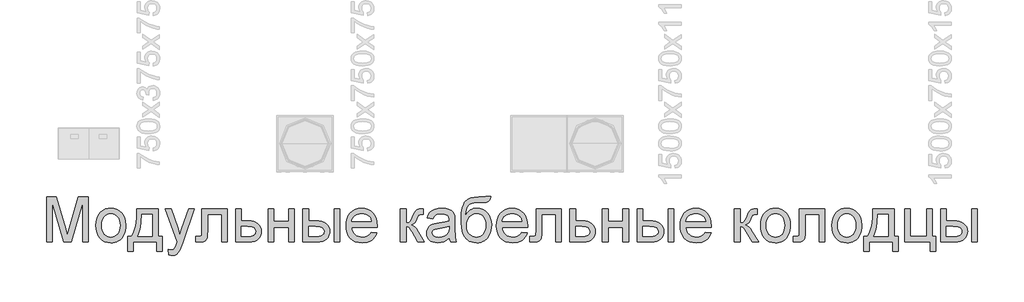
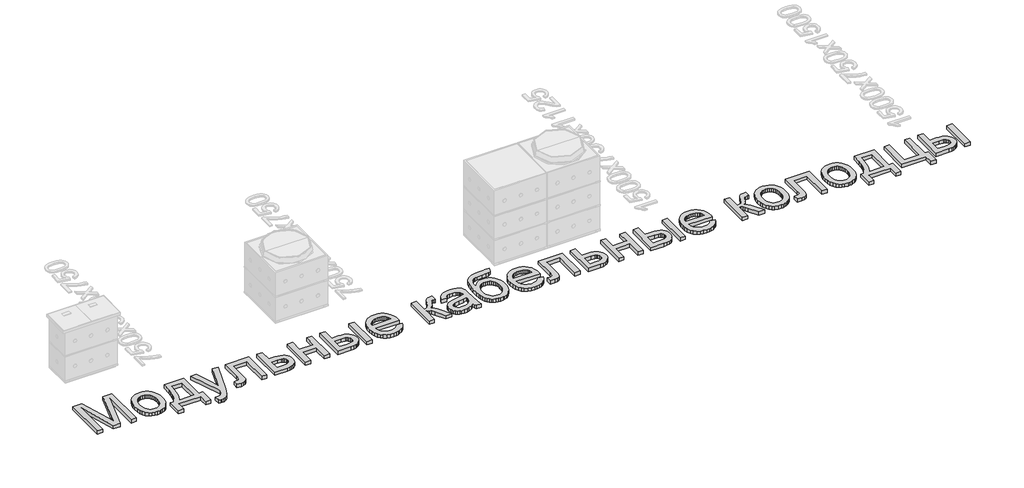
# One storey, part 2 of 3: 1 proxy.
"""IFC4 building model written with IfcOpenShell, lengths in millimetres."""

from ifc_helpers import new_model, si_unit, origin, origin_with_axes, place, context, project, spatial, polyline, outline, extrude, element, save

model = new_model("IFC4")

# Units and contexts
model_context = context("Model", 3, world=origin())
ifc_project = project(units=[si_unit("LENGTHUNIT", "METRE", prefix="MILLI")], contexts=[model_context])

# Site, building, storey
site = spatial("IfcSite", under=ifc_project)
building = spatial("IfcBuilding", under=site)
storey = spatial("IfcBuildingStorey", under=building, Name="Этаж 01", Elevation=0.0)

# Proxy
placement = place(None, origin())
element("IfcBuildingElementProxy", 1, Name="600 мм Arial", ObjectType="600 мм Arial", at=placement, inside=storey, context=model_context, shape_type="SweptSolid", body=[
    extrude(outline(polyline([(772.3234969, -6506.7624322), (772.3234969, -5904.0245713), (901.965112, -5904.0245713), (1025.2791568, -6328.8546993), (1050.1479797, -6417.5878365), (1077.0769417, -6321.4970594), (1198.3308473, -5904.0245713), (1327.9724624, -5904.0245713), (1327.9724624, -6506.7624322), (1252.6302298, -6506.7624322), (1252.6302298, -5979.3668039), (1101.2100006, -6506.7624322), (999.0859587, -6506.7624322), (847.6657295, -5979.3668039), (847.6657295, -6506.7624322), (772.3234969, -6506.7624322)])), origin_with_axes(), (0.0, 0.0, 1.0), 50.0),
    extrude(outline(polyline([(1431.5680323, -6285.4446239), (1435.6423254, -6228.119412), (1447.8652047, -6178.7220571), (1468.2366701, -6137.2525592), (1496.7567218, -6103.7109182), (1525.4699115, -6082.272595), (1557.1629454, -6066.9595069), (1591.8358235, -6057.7716541), (1629.4885457, -6054.7090365), (1671.0546126, -6058.4384402), (1708.6383569, -6069.6266514), (1742.2397787, -6088.27367), (1771.8588778, -6114.3794961), (1796.0333234, -6147.0612128), (1813.3007846, -6185.4359035), (1823.6612613, -6229.503568), (1827.1147535, -6279.2642063), (1825.5880432, -6319.5932701), (1821.0079124, -6355.3789911), (1813.374361, -6386.6213696), (1802.687389, -6413.3204054), (1789.0803537, -6436.382008), (1772.6866123, -6456.7120867), (1753.5061648, -6474.3106417), (1731.5390111, -6489.1776728), (1707.640477, -6500.9912834), (1682.6658881, -6509.4295766), (1656.6152443, -6514.4925526), (1629.4885457, -6516.1802112), (1587.3154735, -6512.4646031), (1549.3822412, -6501.3177786), (1515.688849, -6482.7397379), (1486.2352968, -6456.7304808), (1462.3183685, -6423.7314658), (1445.2348484, -6384.1841514), (1434.9847363, -6338.0885374), (1431.5680323, -6285.4446239)]), holes=[polyline([(1506.9102649, -6285.2974711), (1509.0899657, -6321.8419488), (1515.6290682, -6353.4843989), (1526.5275723, -6380.2248214), (1541.785478, -6402.0632163), (1560.3451247, -6419.0271748), (1581.1488515, -6431.144288), (1604.1966585, -6438.414556), (1629.4885457, -6440.8379786), (1654.6516742, -6438.4007604), (1677.6075107, -6431.0891057), (1698.3560552, -6418.9030147), (1716.8973077, -6401.8424871), (1732.1552135, -6379.7879615), (1743.0537176, -6352.6198762), (1749.5928201, -6320.3382311), (1751.7725209, -6282.9430263), (1749.5790245, -6247.5573769), (1742.9985353, -6216.7426613), (1732.0310533, -6190.4988794), (1716.6765785, -6168.8260314), (1698.0663481, -6151.8620729), (1677.3315992, -6139.7449597), (1654.4723317, -6132.4746917), (1629.4885457, -6130.0512691), (1604.1966585, -6132.4654947), (1581.1488515, -6139.7081715), (1560.3451247, -6151.7792994), (1541.785478, -6168.6788786), (1526.5275723, -6190.4528942), (1515.6290682, -6217.1473315), (1509.0899657, -6248.7621904), (1506.9102649, -6285.2974711)])]), origin_with_axes(), (0.0, 0.0, 1.0), 50.0),
    extrude(outline(polyline([(1977.7992187, -6064.1268156), (2260.332591, -6064.1268156), (2260.332591, -6431.4201995), (2316.8392655, -6431.4201995), (2316.8392655, -6629.1935602), (2241.4970329, -6629.1935602), (2241.4970329, -6506.7624322), (1930.7103233, -6506.7624322), (1930.7103233, -6629.1935602), (1855.3680907, -6629.1935602), (1855.3680907, -6431.4201995), (1902.4569861, -6431.4201995), (1920.8556844, -6402.9875198), (1936.6884058, -6369.5608421), (1949.9551502, -6331.1401662), (1960.6559177, -6287.7254922), (1968.7907084, -6239.3168202), (1974.3595221, -6185.9141501), (1977.7992187, -6064.1268156)]), holes=[polyline([(2043.7236723, -6139.4690482), (2037.5432547, -6231.7154585), (2026.0653365, -6311.1227871), (2009.2899175, -6377.6910341), (1987.2169978, -6431.4201995), (2184.9903584, -6431.4201995), (2184.9903584, -6139.4690482), (2043.7236723, -6139.4690482)])]), origin_with_axes(), (0.0, 0.0, 1.0), 50.0),
    extrude(outline(polyline([(2401.5992772, -6676.2824555), (2392.1814981, -6603.7361261), (2430.4412256, -6610.358002), (2450.5643707, -6608.2794687), (2466.1993555, -6602.0438689), (2478.3762496, -6592.0926609), (2488.1251224, -6578.8673032), (2508.7265142, -6523.3906983), (2514.6126261, -6505.1437514), (2354.5103818, -6064.1268156), (2433.9728927, -6064.1268156), (2518.8800572, -6309.8719883), (2548.4577696, -6408.1700575), (2578.035482, -6321.3499066), (2665.2970913, -6064.1268156), (2744.1709911, -6064.1268156), (2590.1020115, -6517.3574336), (2550.0764504, -6615.6555027), (2529.5854233, -6647.0358369), (2506.3720694, -6668.7776628), (2479.4063191, -6681.4695917), (2447.658103, -6685.7002346), (2425.8427006, -6683.3457898), (2401.5992772, -6676.2824555)])), origin_with_axes(), (0.0, 0.0, 1.0), 50.0),
    extrude(outline(polyline([(2844.2348938, -6064.1268156), (3183.2749405, -6064.1268156), (3183.2749405, -6506.3209738), (3107.9327079, -6506.3209738), (3107.9327079, -6139.4690482), (2919.5771264, -6139.4690482), (2919.5771264, -6350.6333134), (2918.3079335, -6411.9224538), (2914.5003548, -6448.0484657), (2904.9906053, -6470.1029913), (2886.6148996, -6489.1776728), (2858.7294444, -6502.3662423), (2820.6904461, -6506.7624322), (2759.4748821, -6502.9364594), (2759.4748821, -6431.4201995), (2793.1728728, -6431.4201995), (2813.6087177, -6430.2613713), (2827.2387456, -6426.7848864), (2835.7552138, -6420.7884099), (2840.8503794, -6412.0696066), (2844.2348938, -6346.3658823), (2844.2348938, -6064.1268156)])), origin_with_axes(), (0.0, 0.0, 1.0), 50.0),
    extrude(outline(polyline([(3296.2882894, -6064.1268156), (3371.630522, -6064.1268156), (3371.630522, -6224.2290599), (3458.4506729, -6224.2290599), (3498.5314163, -6226.5881032), (3533.7193291, -6233.665233), (3564.0144114, -6245.4604495), (3589.4166632, -6261.9737526), (3609.5030201, -6282.6349251), (3623.8504179, -6306.8737501), (3632.4588566, -6334.6902274), (3635.3283362, -6366.0843572), (3632.8865194, -6394.0939726), (3625.5610692, -6419.9974636), (3613.3519855, -6443.7948302), (3596.2592683, -6465.4860723), (3573.795474, -6483.5444797), (3545.4731589, -6496.4433422), (3511.292323, -6504.1826597), (3471.2529663, -6506.7624322), (3296.2882894, -6506.7624322), (3296.2882894, -6064.1268156)]), holes=[polyline([(3371.630522, -6431.4201995), (3441.9695595, -6431.4201995), (3496.5448535, -6427.4654681), (3516.9760998, -6422.5220538), (3532.8364123, -6415.6012738), (3544.7144022, -6406.5835663), (3553.1986808, -6395.3493699), (3558.2892479, -6381.8986845), (3559.9861036, -6366.23151), (3554.9645143, -6341.6202045), (3539.8997466, -6319.8783786), (3526.8077461, -6310.9940284), (3507.6181016, -6304.648064), (3450.9458802, -6299.5712925), (3371.630522, -6299.5712925), (3371.630522, -6431.4201995)])]), origin_with_axes(), (0.0, 0.0, 1.0), 50.0),
    extrude(outline(polyline([(3729.506127, -6064.1268156), (3804.8483596, -6064.1268156), (3804.8483596, -6233.6468389), (4002.6217202, -6233.6468389), (4002.6217202, -6064.1268156), (4077.9639528, -6064.1268156), (4077.9639528, -6506.7624322), (4002.6217202, -6506.7624322), (4002.6217202, -6308.9890716), (3804.8483596, -6308.9890716), (3804.8483596, -6506.7624322), (3729.506127, -6506.7624322), (3729.506127, -6064.1268156)])), origin_with_axes(), (0.0, 0.0, 1.0), 50.0),
    extrude(outline(polyline([(4605.3595811, -6064.1268156), (4680.7018137, -6064.1268156), (4680.7018137, -6506.7624322), (4605.3595811, -6506.7624322), (4605.3595811, -6064.1268156)])), origin_with_axes(), (0.0, 0.0, 1.0), 50.0),
    extrude(outline(polyline([(4190.9773017, -6064.1268156), (4266.3195343, -6064.1268156), (4266.3195343, -6224.2290599), (4359.4672555, -6224.2290599), (4402.3301065, -6226.5881032), (4439.9782301, -6233.665233), (4472.4116265, -6245.4604495), (4499.6302957, -6261.9737526), (4521.1651879, -6282.6349251), (4536.5472539, -6306.8737501), (4545.7764934, -6334.6902274), (4548.8529066, -6366.0843572), (4546.2731341, -6394.0939726), (4538.5338166, -6419.9974636), (4525.6349542, -6443.7948302), (4507.5765467, -6465.4860723), (4483.8527566, -6483.5444797), (4453.957746, -6496.4433422), (4417.8915148, -6504.1826597), (4375.6540633, -6506.7624322), (4190.9773017, -6506.7624322), (4190.9773017, -6064.1268156)]), holes=[polyline([(4266.3195343, -6431.4201995), (4343.7219061, -6431.4201995), (4403.7234595, -6427.4654681), (4426.1918524, -6422.5220538), (4443.638656, -6415.6012738), (4456.7076639, -6406.5835663), (4466.0426695, -6395.3493699), (4471.6436729, -6381.8986845), (4473.510674, -6366.23151), (4467.97405, -6341.6202045), (4451.3641779, -6319.8783786), (4436.9478022, -6310.9940284), (4415.8451713, -6304.648064), (4353.5811436, -6299.5712925), (4266.3195343, -6299.5712925), (4266.3195343, -6431.4201995)])]), origin_with_axes(), (0.0, 0.0, 1.0), 50.0),
    extrude(outline(polyline([(5103.6189553, -6374.9135251), (5177.48966, -6384.3313042), (5166.163493, -6413.9182136), (5150.8733976, -6439.99185), (5131.6193737, -6462.5522134), (5108.4014213, -6481.5993037), (5081.4586637, -6496.7284507), (5051.0302241, -6507.5349843), (5017.1161027, -6514.0189045), (4979.7162994, -6516.1802112), (4932.9676948, -6512.4508075), (4891.3142559, -6501.2625963), (4854.7559826, -6482.6155777), (4823.292875, -6456.5097516), (4797.9917908, -6423.671685), (4779.9195878, -6384.8279449), (4769.076266, -6339.9785311), (4765.4618254, -6289.1234438), (4769.1130542, -6236.5439097), (4780.0667406, -6190.1999753), (4798.3228846, -6150.0916408), (4823.8814862, -6116.2189061), (4855.2618204, -6089.3083381), (4890.9831621, -6070.0865039), (4931.0455114, -6058.5534033), (4975.4488682, -6054.7090365), (5018.4220838, -6058.5442063), (5057.284218, -6070.0497157), (5092.035271, -6089.2255647), (5122.6752427, -6116.0717533), (5147.6866198, -6149.8709116), (5165.5518892, -6189.9056697), (5176.2710509, -6236.1760277), (5179.8441047, -6288.6819854), (5179.4026463, -6308.9890716), (4840.804058, -6308.9890716), (4845.1680581, -6339.0542276), (4853.8454747, -6365.3853814), (4866.8363077, -6387.982533), (4884.140557, -6406.8456823), (4904.8017296, -6421.7173119), (4927.8633321, -6432.3399045), (4953.3253647, -6438.7134601), (4981.1878273, -6440.8379786), (5021.2869648, -6436.9016413), (5055.058532, -6425.0926292), (5082.5025288, -6404.6751785), (5103.6189553, -6374.9135251)]), holes=[polyline([(4840.804058, -6233.6468389), (5104.5018721, -6233.6468389), (5094.3115409, -6193.8420071), (5085.5467523, -6178.1886282), (5074.3355485, -6165.3679406), (5053.7893391, -6149.9168968), (5030.4104383, -6138.880437), (5004.1988461, -6132.2585611), (4975.1545626, -6130.0512691), (4948.6624604, -6131.8125041), (4924.3684532, -6137.0962093), (4902.2725408, -6145.9023846), (4882.3747234, -6158.2310299), (4865.6774794, -6173.5119283), (4853.1832871, -6191.1748626), (4844.8921467, -6211.2198328), (4840.804058, -6233.6468389)])]), origin_with_axes(), (0.0, 0.0, 1.0), 50.0),
    extrude(outline(polyline([(5490.6308143, -6064.1268156), (5565.9730469, -6064.1268156), (5565.9730469, -6252.4823971), (5596.6176171, -6249.0978827), (5616.4464566, -6238.9443397), (5633.9944278, -6212.456836), (5657.7963929, -6160.0704399), (5676.9814389, -6117.2305816), (5692.1565712, -6092.0122708), (5706.320028, -6078.2718783), (5722.4700476, -6069.8657747), (5744.8188788, -6065.5615553), (5777.5787705, -6064.1268156), (5791.9997447, -6064.1268156), (5791.9997447, -6139.9105066), (5771.6926586, -6139.4690482), (5748.1482109, -6141.4556109), (5734.9044591, -6147.4152993), (5724.1623048, -6164.0067773), (5709.0055666, -6197.0057922), (5693.0946703, -6230.0599895), (5678.6185138, -6250.6429871), (5661.0889367, -6264.3833796), (5636.0177788, -6276.9097616), (5659.8933202, -6287.5139601), (5683.5481325, -6306.2299566), (5706.9822156, -6333.0577511), (5730.1955695, -6367.9973436), (5810.8353029, -6506.7624322), (5725.1923744, -6506.7624322), (5646.1713218, -6370.9403995), (5624.8341661, -6334.7959935), (5606.4400663, -6313.4772319), (5587.8620256, -6303.0477773), (5565.9730469, -6299.5712925), (5565.9730469, -6506.7624322), (5490.6308143, -6506.7624322), (5490.6308143, -6064.1268156)])), origin_with_axes(), (0.0, 0.0, 1.0), 50.0),
    extrude(outline(polyline([(6140.4575705, -6450.2557577), (6104.4603173, -6481.1210571), (6067.3962063, -6501.3177786), (6028.4191089, -6512.4646031), (5986.6828966, -6516.1802112), (5953.1366571, -6513.9453281), (5923.7198931, -6507.2406788), (5898.4326044, -6496.0662631), (5877.2747912, -6480.4220813), (5860.5683501, -6461.3014146), (5848.6351779, -6439.6975444), (5841.4752745, -6415.6104708), (5839.0886401, -6389.0401937), (5842.6938836, -6357.8070123), (5853.5096143, -6329.4433105), (5870.1930628, -6305.1630988), (5891.4014598, -6286.1803878), (5916.325465, -6271.83299), (5944.1557379, -6261.4587178), (6009.3444275, -6250.1279523), (6086.3789172, -6238.2085757), (6140.0161121, -6224.2290599), (6140.4575705, -6207.4536409), (6135.2704344, -6173.8292265), (6128.7865142, -6161.376421), (6119.709026, -6151.8298832), (6104.0188589, -6142.3017395), (6084.9073893, -6135.4959226), (6036.4205423, -6130.0512691), (5991.5389389, -6133.6749067), (5960.1953929, -6144.5458197), (5938.821449, -6164.6505707), (5923.8486518, -6195.9757226), (5848.5064192, -6186.5579436), (5861.5846241, -6145.3551601), (5881.1007639, -6112.9815445), (5908.8758546, -6088.2230862), (5946.7309119, -6069.8657747), (5993.028861, -6058.498221), (6046.132627, -6054.7090365), (6097.0658892, -6058.0567626), (6137.4409382, -6068.0999411), (6167.8831733, -6083.201497), (6189.0179939, -6101.7243555), (6203.0342979, -6124.6250097), (6212.1209832, -6152.8599528), (6215.7998032, -6218.7844063), (6215.7998032, -6312.5207387), (6219.6257759, -6443.4131526), (6225.2911586, -6475.7683741), (6234.6353613, -6506.7624322), (6159.2931287, -6506.7624322), (6147.2265993, -6480.5692341), (6140.4575705, -6450.2557577)]), holes=[polyline([(6140.4575705, -6299.5712925), (6089.837008, -6312.1160685), (6018.9093593, -6322.6742818), (5954.0885518, -6334.887964), (5937.2211623, -6343.2388853), (5924.7315686, -6354.7535918), (5917.0060467, -6368.5491666), (5914.4308727, -6383.742693), (5920.0410731, -6406.1467065), (5936.8716744, -6424.504018), (5964.5547945, -6436.7544885), (6002.7225515, -6440.8379786), (6043.189571, -6436.3314242), (6078.9477009, -6422.8117609), (6107.9368022, -6402.8909508), (6128.0967355, -6379.1809562), (6137.036268, -6354.7535918), (6140.0161121, -6320.9084482), (6140.4575705, -6299.5712925)])]), origin_with_axes(), (0.0, 0.0, 1.0), 50.0),
    extrude(outline(polyline([(6630.1820825, -5894.6067922), (6696.1065361, -5894.6067922), (6688.9696253, -5930.4201044), (6676.6823667, -5953.394335), (6659.6494303, -5966.9875747), (6638.2754864, -5974.6579143), (6603.4370615, -5978.1895815), (6546.010682, -5979.3668039), (6469.3992565, -5983.7078114), (6441.9506612, -5989.1340708), (6421.7401441, -5996.730834), (6406.3166914, -6006.7188302), (6393.2292894, -6019.3187885), (6382.4779381, -6034.530709), (6374.0626375, -6052.3545917), (6362.7870543, -6096.0957609), (6357.9494061, -6150.7998136), (6388.2444884, -6108.7141134), (6423.211672, -6078.6949426), (6442.4564989, -6068.2011087), (6462.8877452, -6060.705513), (6507.3094961, -6054.7090365), (6548.3559297, -6058.5212137), (6585.7051493, -6069.9577452), (6619.3571548, -6089.0186311), (6649.3119463, -6115.7038713), (6673.9048576, -6148.8914258), (6691.4712229, -6187.4592544), (6702.0110421, -6231.4073573), (6705.5243151, -6280.7357343), (6703.7814742, -6318.47123), (6698.5529513, -6352.6566644), (6689.8387466, -6383.2920375), (6677.6388599, -6410.3773494), (6647.1598366, -6455.2405587), (6611.4936772, -6488.5890616), (6590.634768, -6500.6601896), (6566.3177682, -6509.2824238), (6538.5426775, -6514.4557644), (6507.3094961, -6516.1802112), (6471.1788857, -6513.9591237), (6439.3065093, -6507.2958611), (6411.6923671, -6496.1904233), (6388.3364589, -6480.6428105), (6368.346671, -6461.6325084), (6350.8308895, -6440.1390028), (6335.7891144, -6416.1622938), (6323.2213457, -6389.7023813), (6313.306926, -6356.8643147), (6306.2251976, -6313.7531434), (6301.9761605, -6260.3688674), (6300.5598148, -6196.7114866), (6304.1328687, -6117.3823329), (6314.8520304, -6052.1522566), (6332.7172997, -6001.0212578), (6344.3297248, -5980.7429125), (6357.7286769, -5963.9893365), (6390.1528762, -5937.7547517), (6430.2566122, -5919.0157626), (6478.0398849, -5907.7723691), (6533.5026942, -5904.0245713), (6617.3797891, -5902.3323141), (6625.5835576, -5899.554805), (6630.1820825, -5894.6067922)]), holes=[polyline([(6630.1820825, -6278.3812896), (6628.1403374, -6247.2630713), (6622.0151022, -6219.097106), (6611.8063769, -6193.8833938), (6597.5141613, -6171.6219346), (6579.5063377, -6153.4347684), (6558.1507879, -6140.4439355), (6533.4475119, -6132.6494357), (6505.3965098, -6130.0512691), (6476.1223, -6132.7965885), (6450.3981515, -6141.0325467), (6428.2240642, -6154.7591436), (6409.6000382, -6173.9763793), (6394.8571673, -6197.7829429), (6384.3265451, -6225.2775235), (6378.0081719, -6256.4601212), (6375.9020475, -6291.3307358), (6378.2289011, -6325.4747835), (6385.2094619, -6355.360597), (6396.84373, -6380.9881765), (6413.1317054, -6402.3575219), (6432.8317862, -6419.1927217), (6454.7023708, -6431.2178644), (6478.7434592, -6438.4329501), (6504.9550514, -6440.8379786), (6531.5253285, -6438.055871), (6555.4652493, -6429.7095483), (6576.7748139, -6415.7990103), (6595.4540222, -6396.3242572), (6610.6475486, -6372.2601762), (6621.5000674, -6344.5816546), (6628.0115787, -6313.2886924), (6630.1820825, -6278.3812896)])]), origin_with_axes(), (0.0, 0.0, 1.0), 50.0),
    extrude(outline(polyline([(7109.6058986, -6374.9135251), (7183.4766033, -6384.3313042), (7172.1504363, -6413.9182136), (7156.8603409, -6439.99185), (7137.606317, -6462.5522134), (7114.3883646, -6481.5993037), (7087.445607, -6496.7284507), (7057.0171674, -6507.5349843), (7023.103046, -6514.0189045), (6985.7032427, -6516.1802112), (6938.9546381, -6512.4508075), (6897.3011992, -6501.2625963), (6860.7429259, -6482.6155777), (6829.2798183, -6456.5097516), (6803.9787341, -6423.671685), (6785.9065311, -6384.8279449), (6775.0632093, -6339.9785311), (6771.4487687, -6289.1234438), (6775.0999975, -6236.5439097), (6786.0536839, -6190.1999753), (6804.3098279, -6150.0916408), (6829.8684295, -6116.2189061), (6861.2487637, -6089.3083381), (6896.9701054, -6070.0865039), (6937.0324547, -6058.5534033), (6981.4358115, -6054.7090365), (7024.4090271, -6058.5442063), (7063.2711613, -6070.0497157), (7098.0222143, -6089.2255647), (7128.662186, -6116.0717533), (7153.6735631, -6149.8709116), (7171.5388325, -6189.9056697), (7182.2579942, -6236.1760277), (7185.831048, -6288.6819854), (7185.3895896, -6308.9890716), (6846.7910013, -6308.9890716), (6851.1550014, -6339.0542276), (6859.832418, -6365.3853814), (6872.823251, -6387.982533), (6890.1275003, -6406.8456823), (6910.7886729, -6421.7173119), (6933.8502754, -6432.3399045), (6959.312308, -6438.7134601), (6987.1747706, -6440.8379786), (7027.2739081, -6436.9016413), (7061.0454753, -6425.0926292), (7088.4894721, -6404.6751785), (7109.6058986, -6374.9135251)]), holes=[polyline([(6846.7910013, -6233.6468389), (7110.4888154, -6233.6468389), (7100.2984842, -6193.8420071), (7091.5336956, -6178.1886282), (7080.3224918, -6165.3679406), (7059.7762824, -6149.9168968), (7036.3973816, -6138.880437), (7010.1857894, -6132.2585611), (6981.1415059, -6130.0512691), (6954.6494037, -6131.8125041), (6930.3553965, -6137.0962093), (6908.2594841, -6145.9023846), (6888.3616667, -6158.2310299), (6871.6644227, -6173.5119283), (6859.1702304, -6191.1748626), (6850.87909, -6211.2198328), (6846.7910013, -6233.6468389)])]), origin_with_axes(), (0.0, 0.0, 1.0), 50.0),
    extrude(outline(polyline([(7298.844397, -6064.1268156), (7637.8844437, -6064.1268156), (7637.8844437, -6506.3209738), (7562.5422111, -6506.3209738), (7562.5422111, -6139.4690482), (7374.1866296, -6139.4690482), (7374.1866296, -6350.6333134), (7372.9174367, -6411.9224538), (7369.109858, -6448.0484657), (7359.6001085, -6470.1029913), (7341.2244028, -6489.1776728), (7313.3389476, -6502.3662423), (7275.2999493, -6506.7624322), (7214.0843853, -6502.9364594), (7214.0843853, -6431.4201995), (7247.782376, -6431.4201995), (7268.2182209, -6430.2613713), (7281.8482488, -6426.7848864), (7290.364717, -6420.7884099), (7295.4598826, -6412.0696066), (7298.844397, -6346.3658823), (7298.844397, -6064.1268156)])), origin_with_axes(), (0.0, 0.0, 1.0), 50.0),
    extrude(outline(polyline([(7750.8977926, -6064.1268156), (7826.2400252, -6064.1268156), (7826.2400252, -6224.2290599), (7913.0601761, -6224.2290599), (7953.1409195, -6226.5881032), (7988.3288323, -6233.665233), (8018.6239146, -6245.4604495), (8044.0261664, -6261.9737526), (8064.1125233, -6282.6349251), (8078.4599211, -6306.8737501), (8087.0683598, -6334.6902274), (8089.9378394, -6366.0843572), (8087.4960226, -6394.0939726), (8080.1705724, -6419.9974636), (8067.9614887, -6443.7948302), (8050.8687715, -6465.4860723), (8028.4049772, -6483.5444797), (8000.0826621, -6496.4433422), (7965.9018262, -6504.1826597), (7925.8624695, -6506.7624322), (7750.8977926, -6506.7624322), (7750.8977926, -6064.1268156)]), holes=[polyline([(7826.2400252, -6431.4201995), (7896.5790627, -6431.4201995), (7951.1543567, -6427.4654681), (7971.585603, -6422.5220538), (7987.4459155, -6415.6012738), (7999.3239054, -6406.5835663), (8007.808184, -6395.3493699), (8012.8987511, -6381.8986845), (8014.5956068, -6366.23151), (8009.5740175, -6341.6202045), (7994.5092498, -6319.8783786), (7981.4172493, -6310.9940284), (7962.2276048, -6304.648064), (7905.5553834, -6299.5712925), (7826.2400252, -6299.5712925), (7826.2400252, -6431.4201995)])]), origin_with_axes(), (0.0, 0.0, 1.0), 50.0),
    extrude(outline(polyline([(8184.1156301, -6064.1268156), (8259.4578628, -6064.1268156), (8259.4578628, -6233.6468389), (8457.2312234, -6233.6468389), (8457.2312234, -6064.1268156), (8532.573456, -6064.1268156), (8532.573456, -6506.7624322), (8457.2312234, -6506.7624322), (8457.2312234, -6308.9890716), (8259.4578628, -6308.9890716), (8259.4578628, -6506.7624322), (8184.1156301, -6506.7624322), (8184.1156301, -6064.1268156)])), origin_with_axes(), (0.0, 0.0, 1.0), 50.0),
    extrude(outline(polyline([(9059.9690843, -6064.1268156), (9135.3113169, -6064.1268156), (9135.3113169, -6506.7624322), (9059.9690843, -6506.7624322), (9059.9690843, -6064.1268156)])), origin_with_axes(), (0.0, 0.0, 1.0), 50.0),
    extrude(outline(polyline([(8645.5868049, -6064.1268156), (8720.9290375, -6064.1268156), (8720.9290375, -6224.2290599), (8814.0767587, -6224.2290599), (8856.9396097, -6226.5881032), (8894.5877333, -6233.665233), (8927.0211297, -6245.4604495), (8954.2397989, -6261.9737526), (8975.7746911, -6282.6349251), (8991.1567571, -6306.8737501), (9000.3859966, -6334.6902274), (9003.4624098, -6366.0843572), (9000.8826373, -6394.0939726), (8993.1433198, -6419.9974636), (8980.2444574, -6443.7948302), (8962.1860499, -6465.4860723), (8938.4622598, -6483.5444797), (8908.5672491, -6496.4433422), (8872.501018, -6504.1826597), (8830.2635665, -6506.7624322), (8645.5868049, -6506.7624322), (8645.5868049, -6064.1268156)]), holes=[polyline([(8720.9290375, -6431.4201995), (8798.3314093, -6431.4201995), (8858.3329627, -6427.4654681), (8880.8013556, -6422.5220538), (8898.2481592, -6415.6012738), (8911.3171671, -6406.5835663), (8920.6521727, -6395.3493699), (8926.2531761, -6381.8986845), (8928.1201772, -6366.23151), (8922.5835532, -6341.6202045), (8905.9736811, -6319.8783786), (8891.5573054, -6310.9940284), (8870.4546744, -6304.648064), (8808.1906468, -6299.5712925), (8720.9290375, -6299.5712925), (8720.9290375, -6431.4201995)])]), origin_with_axes(), (0.0, 0.0, 1.0), 50.0),
    extrude(outline(polyline([(9558.2284585, -6374.9135251), (9632.0991632, -6384.3313042), (9620.7729962, -6413.9182136), (9605.4829008, -6439.99185), (9586.2288769, -6462.5522134), (9563.0109245, -6481.5993037), (9536.0681668, -6496.7284507), (9505.6397273, -6507.5349843), (9471.7256059, -6514.0189045), (9434.3258026, -6516.1802112), (9387.577198, -6512.4508075), (9345.9237591, -6501.2625963), (9309.3654858, -6482.6155777), (9277.9023782, -6456.5097516), (9252.601294, -6423.671685), (9234.529091, -6384.8279449), (9223.6857692, -6339.9785311), (9220.0713286, -6289.1234438), (9223.7225574, -6236.5439097), (9234.6762438, -6190.1999753), (9252.9323878, -6150.0916408), (9278.4909894, -6116.2189061), (9309.8713236, -6089.3083381), (9345.5926653, -6070.0865039), (9385.6550146, -6058.5534033), (9430.0583714, -6054.7090365), (9473.031587, -6058.5442063), (9511.8937212, -6070.0497157), (9546.6447742, -6089.2255647), (9577.2847459, -6116.0717533), (9602.296123, -6149.8709116), (9620.1613924, -6189.9056697), (9630.8805541, -6236.1760277), (9634.4536079, -6288.6819854), (9634.0121495, -6308.9890716), (9295.4135612, -6308.9890716), (9299.7775613, -6339.0542276), (9308.4549779, -6365.3853814), (9321.4458109, -6387.982533), (9338.7500602, -6406.8456823), (9359.4112328, -6421.7173119), (9382.4728353, -6432.3399045), (9407.9348679, -6438.7134601), (9435.7973305, -6440.8379786), (9475.896468, -6436.9016413), (9509.6680352, -6425.0926292), (9537.112032, -6404.6751785), (9558.2284585, -6374.9135251)]), holes=[polyline([(9295.4135612, -6233.6468389), (9559.1113753, -6233.6468389), (9548.9210441, -6193.8420071), (9540.1562555, -6178.1886282), (9528.9450517, -6165.3679406), (9508.3988423, -6149.9168968), (9485.0199415, -6138.880437), (9458.8083493, -6132.2585611), (9429.7640658, -6130.0512691), (9403.2719636, -6131.8125041), (9378.9779564, -6137.0962093), (9356.882044, -6145.9023846), (9336.9842266, -6158.2310299), (9320.2869826, -6173.5119283), (9307.7927903, -6191.1748626), (9299.5016498, -6211.2198328), (9295.4135612, -6233.6468389)])]), origin_with_axes(), (0.0, 0.0, 1.0), 50.0),
    extrude(outline(polyline([(9945.2403175, -6064.1268156), (10020.5825501, -6064.1268156), (10020.5825501, -6252.4823971), (10051.2271203, -6249.0978827), (10071.0559598, -6238.9443397), (10088.603931, -6212.456836), (10112.4058961, -6160.0704399), (10131.5909421, -6117.2305816), (10146.7660744, -6092.0122708), (10160.9295312, -6078.2718783), (10177.0795508, -6069.8657747), (10199.428382, -6065.5615553), (10232.1882737, -6064.1268156), (10246.6092479, -6064.1268156), (10246.6092479, -6139.9105066), (10226.3021618, -6139.4690482), (10202.7577141, -6141.4556109), (10189.5139623, -6147.4152993), (10178.771808, -6164.0067773), (10163.6150698, -6197.0057922), (10147.7041735, -6230.0599895), (10133.228017, -6250.6429871), (10115.6984399, -6264.3833796), (10090.627282, -6276.9097616), (10114.5028234, -6287.5139601), (10138.1576357, -6306.2299566), (10161.5917188, -6333.0577511), (10184.8050727, -6367.9973436), (10265.4448061, -6506.7624322), (10179.8018776, -6506.7624322), (10100.780825, -6370.9403995), (10079.4436693, -6334.7959935), (10061.0495695, -6313.4772319), (10042.4715288, -6303.0477773), (10020.5825501, -6299.5712925), (10020.5825501, -6506.7624322), (9945.2403175, -6506.7624322), (9945.2403175, -6064.1268156)])), origin_with_axes(), (0.0, 0.0, 1.0), 50.0),
    extrude(outline(polyline([(10293.6981433, -6285.4446239), (10297.7724364, -6228.119412), (10309.9953157, -6178.7220571), (10330.3667812, -6137.2525592), (10358.8868328, -6103.7109182), (10387.6000226, -6082.272595), (10419.2930564, -6066.9595069), (10453.9659345, -6057.7716541), (10491.6186567, -6054.7090365), (10533.1847236, -6058.4384402), (10570.768468, -6069.6266514), (10604.3698897, -6088.27367), (10633.9889888, -6114.3794961), (10658.1634344, -6147.0612128), (10675.4308956, -6185.4359035), (10685.7913723, -6229.503568), (10689.2448645, -6279.2642063), (10687.7181542, -6319.5932701), (10683.1380234, -6355.3789911), (10675.504472, -6386.6213696), (10664.8175, -6413.3204054), (10651.2104647, -6436.382008), (10634.8167233, -6456.7120867), (10615.6362758, -6474.3106417), (10593.6691222, -6489.1776728), (10569.770588, -6500.9912834), (10544.7959991, -6509.4295766), (10518.7453553, -6514.4925526), (10491.6186567, -6516.1802112), (10449.4455845, -6512.4646031), (10411.5123522, -6501.3177786), (10377.81896, -6482.7397379), (10348.3654078, -6456.7304808), (10324.4484796, -6423.7314658), (10307.3649594, -6384.1841514), (10297.1148473, -6338.0885374), (10293.6981433, -6285.4446239)]), holes=[polyline([(10369.0403759, -6285.2974711), (10371.2200767, -6321.8419488), (10377.7591792, -6353.4843989), (10388.6576833, -6380.2248214), (10403.915589, -6402.0632163), (10422.4752357, -6419.0271748), (10443.2789625, -6431.144288), (10466.3267695, -6438.414556), (10491.6186567, -6440.8379786), (10516.7817852, -6438.4007604), (10539.7376217, -6431.0891057), (10560.4861662, -6418.9030147), (10579.0274187, -6401.8424871), (10594.2853245, -6379.7879615), (10605.1838286, -6352.6198762), (10611.7229311, -6320.3382311), (10613.9026319, -6282.9430263), (10611.7091355, -6247.5573769), (10605.1286463, -6216.7426613), (10594.1611643, -6190.4988794), (10578.8066896, -6168.8260314), (10560.1964591, -6151.8620729), (10539.4617102, -6139.7449597), (10516.6024427, -6132.4746917), (10491.6186567, -6130.0512691), (10466.3267695, -6132.4654947), (10443.2789625, -6139.7081715), (10422.4752357, -6151.7792994), (10403.915589, -6168.6788786), (10388.6576833, -6190.4528942), (10377.7591792, -6217.1473315), (10371.2200767, -6248.7621904), (10369.0403759, -6285.2974711)])]), origin_with_axes(), (0.0, 0.0, 1.0), 50.0),
    extrude(outline(polyline([(10811.6759925, -6064.1268156), (11150.7160393, -6064.1268156), (11150.7160393, -6506.3209738), (11075.3738066, -6506.3209738), (11075.3738066, -6139.4690482), (10887.0182251, -6139.4690482), (10887.0182251, -6350.6333134), (10885.7490322, -6411.9224538), (10881.9414536, -6448.0484657), (10872.431704, -6470.1029913), (10854.0559983, -6489.1776728), (10826.1705431, -6502.3662423), (10788.1315448, -6506.7624322), (10726.9159808, -6502.9364594), (10726.9159808, -6431.4201995), (10760.6139716, -6431.4201995), (10781.0498164, -6430.2613713), (10794.6798443, -6426.7848864), (10803.1963125, -6420.7884099), (10808.2914781, -6412.0696066), (10811.6759925, -6346.3658823), (10811.6759925, -6064.1268156)])), origin_with_axes(), (0.0, 0.0, 1.0), 50.0),
    extrude(outline(polyline([(11244.89383, -6285.4446239), (11248.9681231, -6228.119412), (11261.1910024, -6178.7220571), (11281.5624679, -6137.2525592), (11310.0825196, -6103.7109182), (11338.7957093, -6082.272595), (11370.4887432, -6066.9595069), (11405.1616212, -6057.7716541), (11442.8143434, -6054.7090365), (11484.3804104, -6058.4384402), (11521.9641547, -6069.6266514), (11555.5655764, -6088.27367), (11585.1846756, -6114.3794961), (11609.3591212, -6147.0612128), (11626.6265823, -6185.4359035), (11636.987059, -6229.503568), (11640.4405512, -6279.2642063), (11638.913841, -6319.5932701), (11634.3337101, -6355.3789911), (11626.7001587, -6386.6213696), (11616.0131868, -6413.3204054), (11602.4061515, -6436.382008), (11586.01241, -6456.7120867), (11566.8319625, -6474.3106417), (11544.8648089, -6489.1776728), (11520.9662748, -6500.9912834), (11495.9916858, -6509.4295766), (11469.941042, -6514.4925526), (11442.8143434, -6516.1802112), (11400.6412712, -6512.4646031), (11362.708039, -6501.3177786), (11329.0146467, -6482.7397379), (11299.5610945, -6456.7304808), (11275.6441663, -6423.7314658), (11258.5606461, -6384.1841514), (11248.310534, -6338.0885374), (11244.89383, -6285.4446239)]), holes=[polyline([(11320.2360626, -6285.2974711), (11322.4157635, -6321.8419488), (11328.9548659, -6353.4843989), (11339.85337, -6380.2248214), (11355.1112758, -6402.0632163), (11373.6709224, -6419.0271748), (11394.4746493, -6431.144288), (11417.5224563, -6438.414556), (11442.8143434, -6440.8379786), (11467.9774719, -6438.4007604), (11490.9333084, -6431.0891057), (11511.6818529, -6418.9030147), (11530.2231055, -6401.8424871), (11545.4810112, -6379.7879615), (11556.3795153, -6352.6198762), (11562.9186178, -6320.3382311), (11565.0983186, -6282.9430263), (11562.9048222, -6247.5573769), (11556.324333, -6216.7426613), (11545.3568511, -6190.4988794), (11530.0023763, -6168.8260314), (11511.3921458, -6151.8620729), (11490.6573969, -6139.7449597), (11467.7981294, -6132.4746917), (11442.8143434, -6130.0512691), (11417.5224563, -6132.4654947), (11394.4746493, -6139.7081715), (11373.6709224, -6151.7792994), (11355.1112758, -6168.6788786), (11339.85337, -6190.4528942), (11328.9548659, -6217.1473315), (11322.4157635, -6248.7621904), (11320.2360626, -6285.2974711)])]), origin_with_axes(), (0.0, 0.0, 1.0), 50.0),
    extrude(outline(polyline([(11791.1250165, -6064.1268156), (12073.6583888, -6064.1268156), (12073.6583888, -6431.4201995), (12130.1650632, -6431.4201995), (12130.1650632, -6629.1935602), (12054.8228306, -6629.1935602), (12054.8228306, -6506.7624322), (11744.0361211, -6506.7624322), (11744.0361211, -6629.1935602), (11668.6938885, -6629.1935602), (11668.6938885, -6431.4201995), (11715.7827838, -6431.4201995), (11734.1814821, -6402.9875198), (11750.0142035, -6369.5608421), (11763.2809479, -6331.1401662), (11773.9817155, -6287.7254922), (11782.1165061, -6239.3168202), (11787.6853198, -6185.9141501), (11791.1250165, -6064.1268156)]), holes=[polyline([(11857.04947, -6139.4690482), (11850.8690525, -6231.7154585), (11839.3911342, -6311.1227871), (11822.6157152, -6377.6910341), (11800.5427955, -6431.4201995), (11998.3161561, -6431.4201995), (11998.3161561, -6139.4690482), (11857.04947, -6139.4690482)])]), origin_with_axes(), (0.0, 0.0, 1.0), 50.0),
    extrude(outline(polyline([(12214.9250749, -6064.1268156), (12290.2673075, -6064.1268156), (12290.2673075, -6431.4201995), (12506.8762263, -6431.4201995), (12506.8762263, -6064.1268156), (12582.2184589, -6064.1268156), (12582.2184589, -6431.4201995), (12629.3073543, -6431.4201995), (12629.3073543, -6629.1935602), (12553.9651217, -6629.1935602), (12553.9651217, -6506.7624322), (12214.9250749, -6506.7624322), (12214.9250749, -6064.1268156)])), origin_with_axes(), (0.0, 0.0, 1.0), 50.0),
    extrude(outline(polyline([(13109.6140872, -6064.1268156), (13184.9563198, -6064.1268156), (13184.9563198, -6506.7624322), (13109.6140872, -6506.7624322), (13109.6140872, -6064.1268156)])), origin_with_axes(), (0.0, 0.0, 1.0), 50.0),
    extrude(outline(polyline([(12695.2318078, -6064.1268156), (12770.5740404, -6064.1268156), (12770.5740404, -6224.2290599), (12863.7217616, -6224.2290599), (12906.5846126, -6226.5881032), (12944.2327362, -6233.665233), (12976.6661326, -6245.4604495), (13003.8848018, -6261.9737526), (13025.419694, -6282.6349251), (13040.80176, -6306.8737501), (13050.0309995, -6334.6902274), (13053.1074127, -6366.0843572), (13050.5276402, -6394.0939726), (13042.7883227, -6419.9974636), (13029.8894603, -6443.7948302), (13011.8310529, -6465.4860723), (12988.1072627, -6483.5444797), (12958.2122521, -6496.4433422), (12922.146021, -6504.1826597), (12879.9085694, -6506.7624322), (12695.2318078, -6506.7624322), (12695.2318078, -6064.1268156)]), holes=[polyline([(12770.5740404, -6431.4201995), (12847.9764122, -6431.4201995), (12907.9779656, -6427.4654681), (12930.4463585, -6422.5220538), (12947.8931621, -6415.6012738), (12960.96217, -6406.5835663), (12970.2971756, -6395.3493699), (12975.898179, -6381.8986845), (12977.7651801, -6366.23151), (12972.2285561, -6341.6202045), (12955.618684, -6319.8783786), (12941.2023083, -6310.9940284), (12920.0996774, -6304.648064), (12857.8356497, -6299.5712925), (12770.5740404, -6299.5712925), (12770.5740404, -6431.4201995)])]), origin_with_axes(), (0.0, 0.0, 1.0), 50.0),
])

save(model, "model.ifc")
